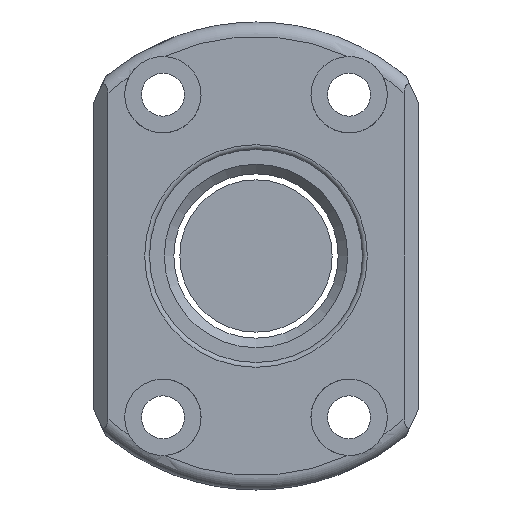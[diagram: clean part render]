
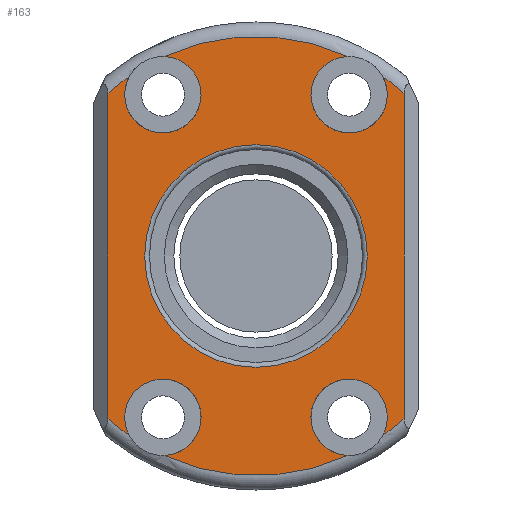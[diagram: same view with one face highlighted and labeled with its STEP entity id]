
A CAD part, front view. The second image highlights one B-rep face of the part: STEP entity #163.
In plain terms, the highlighted planar face has unit normal (0, -1, 0).
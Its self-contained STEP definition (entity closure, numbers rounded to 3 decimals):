
#52=LINE('',#1029,#76);
#53=LINE('',#1041,#77);
#76=VECTOR('',#830,1.);
#77=VECTOR('',#841,1.);
#123=PLANE('',#742);
#163=ADVANCED_FACE('',(#222,#223),#123,.T.);
#222=FACE_BOUND('',#282,.T.);
#223=FACE_BOUND('',#283,.T.);
#282=EDGE_LOOP('',(#358));
#283=EDGE_LOOP('',(#359,#360,#361,#362,#363,#364,#365,#366,#367,#368,#369,
#370));
#358=ORIENTED_EDGE('',*,*,#597,.T.);
#359=ORIENTED_EDGE('',*,*,#598,.T.);
#360=ORIENTED_EDGE('',*,*,#599,.T.);
#361=ORIENTED_EDGE('',*,*,#600,.T.);
#362=ORIENTED_EDGE('',*,*,#601,.F.);
#363=ORIENTED_EDGE('',*,*,#602,.T.);
#364=ORIENTED_EDGE('',*,*,#603,.F.);
#365=ORIENTED_EDGE('',*,*,#604,.T.);
#366=ORIENTED_EDGE('',*,*,#605,.T.);
#367=ORIENTED_EDGE('',*,*,#606,.T.);
#368=ORIENTED_EDGE('',*,*,#607,.F.);
#369=ORIENTED_EDGE('',*,*,#608,.T.);
#370=ORIENTED_EDGE('',*,*,#609,.T.);
#530=VERTEX_POINT('',#1025);
#531=VERTEX_POINT('',#1027);
#532=VERTEX_POINT('',#1028);
#533=VERTEX_POINT('',#1030);
#534=VERTEX_POINT('',#1032);
#535=VERTEX_POINT('',#1034);
#536=VERTEX_POINT('',#1036);
#537=VERTEX_POINT('',#1038);
#538=VERTEX_POINT('',#1040);
#539=VERTEX_POINT('',#1042);
#540=VERTEX_POINT('',#1044);
#541=VERTEX_POINT('',#1046);
#542=VERTEX_POINT('',#1048);
#597=EDGE_CURVE('',#530,#530,#684,.T.);
#598=EDGE_CURVE('',#531,#532,#685,.T.);
#599=EDGE_CURVE('',#532,#533,#52,.T.);
#600=EDGE_CURVE('',#533,#534,#686,.T.);
#601=EDGE_CURVE('',#535,#534,#687,.T.);
#602=EDGE_CURVE('',#535,#536,#688,.T.);
#603=EDGE_CURVE('',#537,#536,#689,.T.);
#604=EDGE_CURVE('',#537,#538,#690,.T.);
#605=EDGE_CURVE('',#538,#539,#53,.T.);
#606=EDGE_CURVE('',#539,#540,#691,.T.);
#607=EDGE_CURVE('',#541,#540,#692,.T.);
#608=EDGE_CURVE('',#541,#542,#693,.T.);
#609=EDGE_CURVE('',#542,#531,#694,.T.);
#684=CIRCLE('',#731,11.65);
#685=CIRCLE('',#732,23.);
#686=CIRCLE('',#733,23.);
#687=CIRCLE('',#734,4.);
#688=CIRCLE('',#735,23.);
#689=CIRCLE('',#736,4.);
#690=CIRCLE('',#737,23.);
#691=CIRCLE('',#738,23.);
#692=CIRCLE('',#739,4.);
#693=CIRCLE('',#740,23.);
#694=CIRCLE('',#741,4.);
#731=AXIS2_PLACEMENT_3D('',#1024,#826,#827);
#732=AXIS2_PLACEMENT_3D('',#1026,#828,#829);
#733=AXIS2_PLACEMENT_3D('',#1031,#831,#832);
#734=AXIS2_PLACEMENT_3D('',#1033,#833,#834);
#735=AXIS2_PLACEMENT_3D('',#1035,#835,#836);
#736=AXIS2_PLACEMENT_3D('',#1037,#837,#838);
#737=AXIS2_PLACEMENT_3D('',#1039,#839,#840);
#738=AXIS2_PLACEMENT_3D('',#1043,#842,#843);
#739=AXIS2_PLACEMENT_3D('',#1045,#844,#845);
#740=AXIS2_PLACEMENT_3D('',#1047,#846,#847);
#741=AXIS2_PLACEMENT_3D('',#1049,#848,#849);
#742=AXIS2_PLACEMENT_3D('',#1050,#850,#851);
#826=DIRECTION('',(0.,1.,0.));
#827=DIRECTION('',(0.,0.,-1.));
#828=DIRECTION('',(0.,-1.,0.));
#829=DIRECTION('',(0.,0.,-1.));
#830=DIRECTION('',(0.,0.,1.));
#831=DIRECTION('',(0.,-1.,0.));
#832=DIRECTION('',(0.,0.,-1.));
#833=DIRECTION('',(0.,-1.,0.));
#834=DIRECTION('',(1.,0.,0.));
#835=DIRECTION('',(0.,-1.,0.));
#836=DIRECTION('',(0.,0.,-1.));
#837=DIRECTION('',(0.,-1.,0.));
#838=DIRECTION('',(-1.,0.,0.));
#839=DIRECTION('',(0.,-1.,0.));
#840=DIRECTION('',(0.,0.,-1.));
#841=DIRECTION('',(0.,0.,-1.));
#842=DIRECTION('',(0.,-1.,0.));
#843=DIRECTION('',(0.,0.,-1.));
#844=DIRECTION('',(0.,-1.,0.));
#845=DIRECTION('',(-1.,0.,0.));
#846=DIRECTION('',(0.,-1.,0.));
#847=DIRECTION('',(0.,0.,-1.));
#848=DIRECTION('',(0.,1.,0.));
#849=DIRECTION('',(1.,0.,0.));
#850=DIRECTION('',(0.,-1.,0.));
#851=DIRECTION('',(0.,0.,-1.));
#1024=CARTESIAN_POINT('',(0.,0.,0.));
#1025=CARTESIAN_POINT('',(0.,0.,-11.65));
#1026=CARTESIAN_POINT('',(0.,0.,0.));
#1027=CARTESIAN_POINT('',(13.271,0.,-18.785));
#1028=CARTESIAN_POINT('',(15.5,0.,-16.993));
#1029=CARTESIAN_POINT('',(15.5,0.,0.));
#1030=CARTESIAN_POINT('',(15.5,0.,16.993));
#1031=CARTESIAN_POINT('',(0.,0.,0.));
#1032=CARTESIAN_POINT('',(13.271,0.,18.785));
#1033=CARTESIAN_POINT('',(9.75,0.,16.887));
#1034=CARTESIAN_POINT('',(9.632,0.,20.886));
#1035=CARTESIAN_POINT('',(0.,0.,0.));
#1036=CARTESIAN_POINT('',(-9.632,0.,20.886));
#1037=CARTESIAN_POINT('',(-9.75,0.,16.887));
#1038=CARTESIAN_POINT('',(-13.271,0.,18.785));
#1039=CARTESIAN_POINT('',(0.,0.,0.));
#1040=CARTESIAN_POINT('',(-15.5,0.,16.993));
#1041=CARTESIAN_POINT('',(-15.5,0.,-15.492));
#1042=CARTESIAN_POINT('',(-15.5,0.,-16.993));
#1043=CARTESIAN_POINT('',(0.,0.,0.));
#1044=CARTESIAN_POINT('',(-13.271,0.,-18.785));
#1045=CARTESIAN_POINT('',(-9.75,0.,-16.887));
#1046=CARTESIAN_POINT('',(-9.632,0.,-20.886));
#1047=CARTESIAN_POINT('',(0.,0.,0.));
#1048=CARTESIAN_POINT('',(9.632,0.,-20.886));
#1049=CARTESIAN_POINT('',(9.75,0.,-16.887));
#1050=CARTESIAN_POINT('',(0.,0.,0.));
